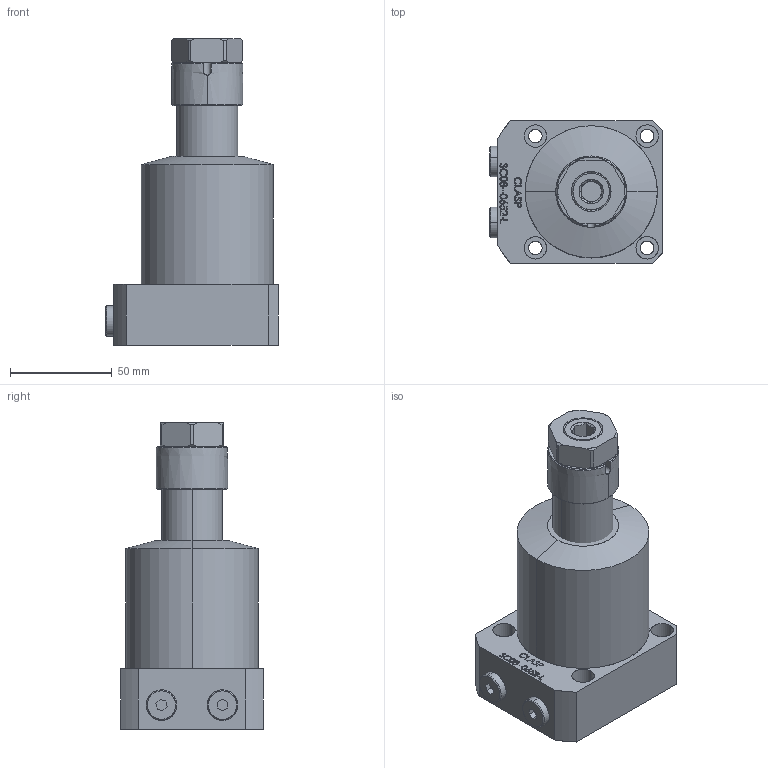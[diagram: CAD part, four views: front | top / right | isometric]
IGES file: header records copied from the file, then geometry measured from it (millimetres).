
Start section: SolidWorks IGES file using analytic representation for surfaces
Global section: file name: D:\karuppas\Clasp\3D model\SWING CYLINDER\bottom mounting swing cylinder\SC08-0652 L\SC08-0652-L.IGS; native system: SolidWorks 2017; preprocessor: SolidWorks 2017; author: pc; date: 220708.224958; units: millimetre
Bounding box: 85 x 70 x 151 mm (x, y, z)
Surface area: 54973.1 mm2 (no closed solid volume)
Topology: 0 solids, 0 shells, 378 faces, 6004 edges, 6003 vertices
Faces by surface type: bspline 271, revolution 107
